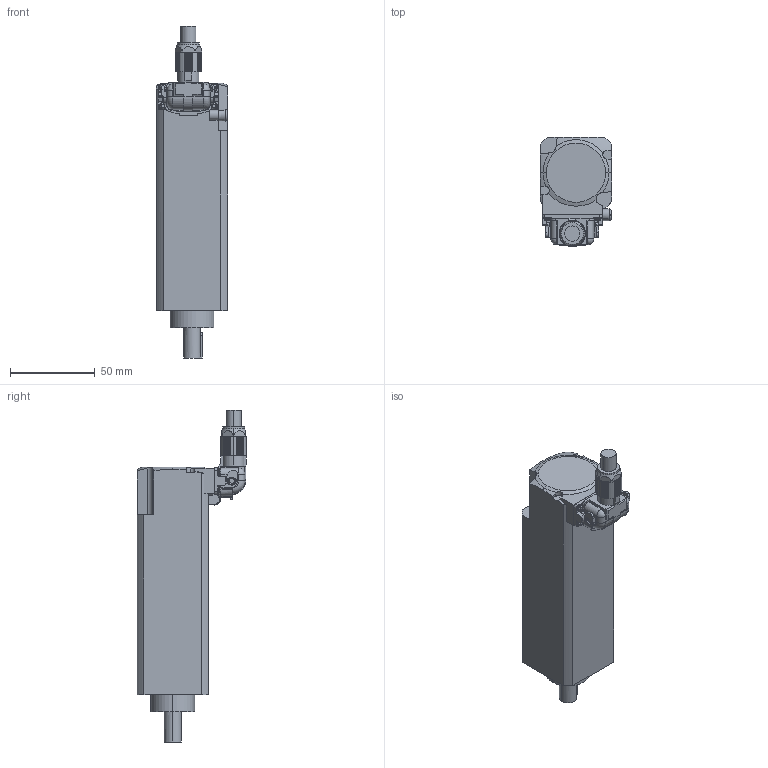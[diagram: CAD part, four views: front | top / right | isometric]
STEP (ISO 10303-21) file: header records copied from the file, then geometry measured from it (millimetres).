
FILE_DESCRIPTION (( 'STEP AP203' ), '1' );
FILE_NAME ('B1567_B.STEP', '2023-02-20T06:19:32', ( '' ), ( '' ), 'SwSTEP 2.0', 'SolidWorks 2020', '' );
FILE_SCHEMA (( 'CONFIG_CONTROL_DESIGN' ));
Length unit declared in the file: millimetre
Products named in the file (1): B1567_B
Bounding box: 42 x 64.8 x 196.2 mm (x, y, z)
Volume: 249498.1 mm3; surface area: 31664.6 mm2
Topology: 1 solids, 1 shells, 590 faces, 1637 edges, 1056 vertices
Faces by surface type: plane 340, cylinder 205, cone 24, torus 19, sphere 2
Entity records: 19122 total; most frequent: CARTESIAN_POINT 3693, ORIENTED_EDGE 3254, DIRECTION 3252, EDGE_CURVE 1627, AXIS2_PLACEMENT_3D 1099, VERTEX_POINT 1056, VECTOR 1054, LINE 1054
